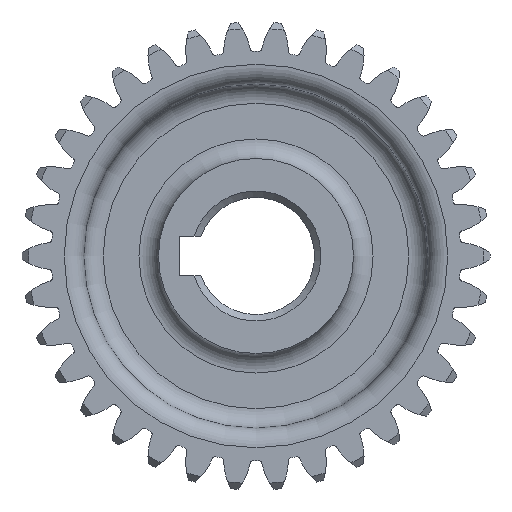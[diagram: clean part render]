
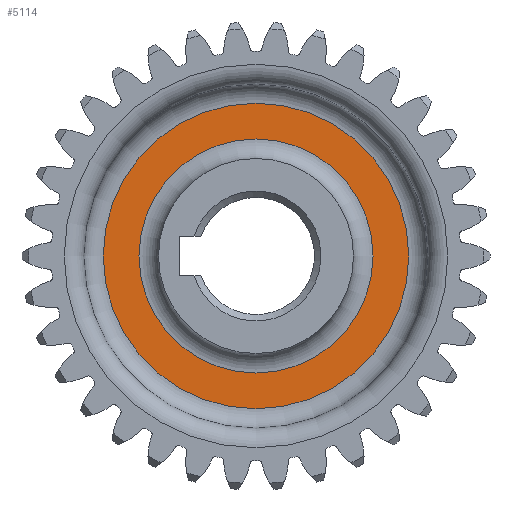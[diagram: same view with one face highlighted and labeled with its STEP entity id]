
A CAD part, left-side view. The second image highlights one B-rep face of the part: STEP entity #5114.
In plain terms, the highlighted planar face has unit normal (-1, 0, 0).
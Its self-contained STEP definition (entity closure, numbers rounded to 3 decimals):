
#864=FACE_BOUND('',#1173,.T.);
#870=PLANE('',#5433);
#880=FACE_OUTER_BOUND('',#1172,.T.);
#1172=EDGE_LOOP('',(#3400));
#1173=EDGE_LOOP('',(#3401));
#1471=CIRCLE('',#5431,18.);
#1473=CIRCLE('',#5434,23.5);
#1971=VERTEX_POINT('',#8027);
#1972=VERTEX_POINT('',#8032);
#2541=EDGE_CURVE('',#1971,#1971,#1471,.T.);
#2543=EDGE_CURVE('',#1972,#1972,#1473,.T.);
#3400=ORIENTED_EDGE('',*,*,#2543,.F.);
#3401=ORIENTED_EDGE('',*,*,#2541,.F.);
#5114=ADVANCED_FACE('',(#880,#864),#870,.T.);
#5431=AXIS2_PLACEMENT_3D('',#8029,#6228,#6229);
#5433=AXIS2_PLACEMENT_3D('',#8031,#6232,#6233);
#5434=AXIS2_PLACEMENT_3D('',#8033,#6234,#6235);
#6228=DIRECTION('center_axis',(-1.,0.,0.));
#6229=DIRECTION('ref_axis',(0.,-1.,0.));
#6232=DIRECTION('center_axis',(-1.,0.,0.));
#6233=DIRECTION('ref_axis',(0.,0.,1.));
#6234=DIRECTION('center_axis',(1.,0.,0.));
#6235=DIRECTION('ref_axis',(0.,-1.,0.));
#8027=CARTESIAN_POINT('',(-3.,0.,18.));
#8029=CARTESIAN_POINT('Origin',(-3.,0.,
0.));
#8031=CARTESIAN_POINT('Origin',(-3.,26.5,0.));
#8032=CARTESIAN_POINT('',(-3.,0.,23.5));
#8033=CARTESIAN_POINT('Origin',(-3.,0.,
0.));
